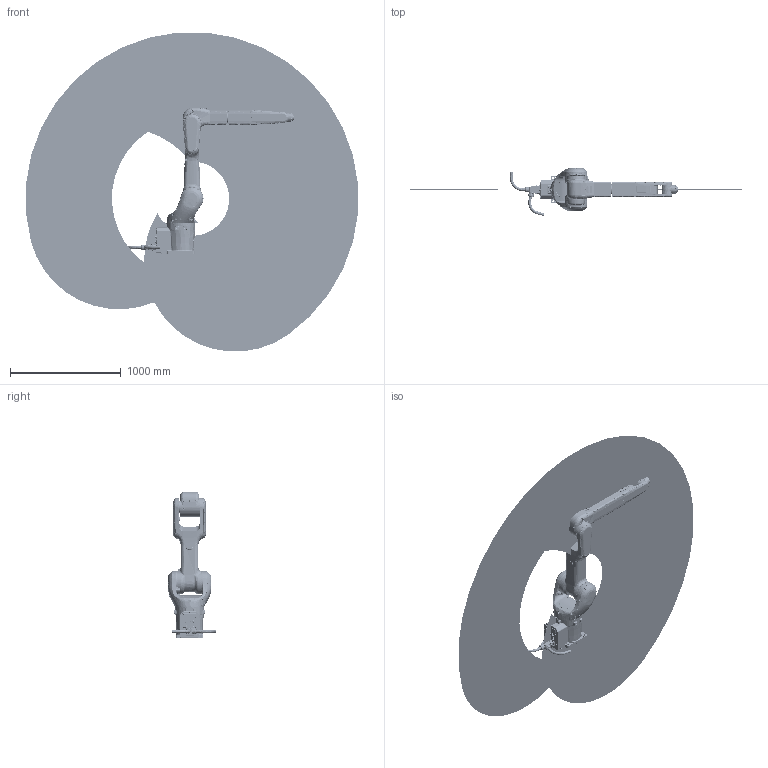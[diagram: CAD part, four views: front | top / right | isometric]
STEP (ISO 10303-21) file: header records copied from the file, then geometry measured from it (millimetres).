
FILE_DESCRIPTION(/* description */ (''),/* implementation_level */ '2;1');
FILE_NAME(/* name */ 'NB12s-1016 简化模型(20220421).stp',/* time_stamp */ '2022-04-21T13:49:46+08:00',/* author */ (''),/* organization */ (''),/* preprocessor_version */ 'ST-DEVELOPER v16',/* originating_system */ 'SIEMENS PLM Software NX 10.0',/* authorisation */ '');
FILE_SCHEMA (('CONFIG_CONTROL_DESIGN'));
Products named in the file (9): NB12s-3DWork-E; NB12-xiaobiqian-Dlogo; NB12-shuchu-A; NB12-shouwan-A; NB12-xiaobihou-A; NB12-dabi-A; NB12-yao-A; NB12-base-A; NB12s-1016 简化模型(20220421)
Assembly tree (8 placements, depth 2):
  NB12s-1016 简化模型(20220421)
    NB12-base-A
    NB12-yao-A
    NB12-dabi-A
    NB12-xiaobihou-A
    NB12-shouwan-A
    NB12-shuchu-A
    NB12-xiaobiqian-Dlogo
    NB12s-3DWork-E
Bounding box: 2991.62 x 432.31 x 2872.28 mm (x, y, z)
Volume: 50906458.4 mm3; surface area: 8479098.6 mm2
Topology: 37 solids, 97 shells, 10531 faces, 24446 edges, 14448 vertices
Faces by surface type: plane 4699, cylinder 1868, cone 1489, bspline 1186, extrusion 607, torus 598, sphere 78, revolution 6
Full cylindrical faces by diameter (mm): 0.8 x20, 1.1 x20, 2.5 x4, 3.3 x14, 3.464 x10, 3.5 x4, 3.838 x32, 4.1 x4, 4.2 x21, 4.5 x41, 4.826 x4, 5 x9, 5.13 x8, 5.5 x32, 5.795 x2, 6.5 x16, 6.8 x2, 7 x102, 7.76 x5, 7.782 x2, 8.4 x14, 8.5 x5, 8.6 x2, 9 x2, 9.728 x1, 10 x7, 10.1 x1, 10.272 x1, 10.3 x4, 11 x9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
Entity records: 408330 total; most frequent: CARTESIAN_POINT 187184, ORIENTED_EDGE 45551, DIRECTION 42863, EDGE_CURVE 22779, AXIS2_PLACEMENT_3D 16308, VERTEX_POINT 14103, EDGE_LOOP 12290, ADVANCED_FACE 10526
